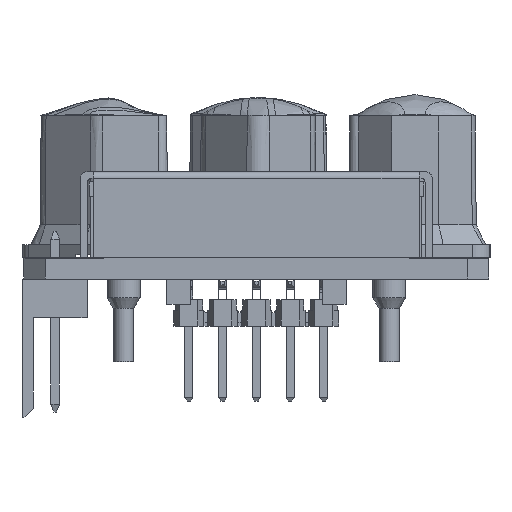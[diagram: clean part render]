
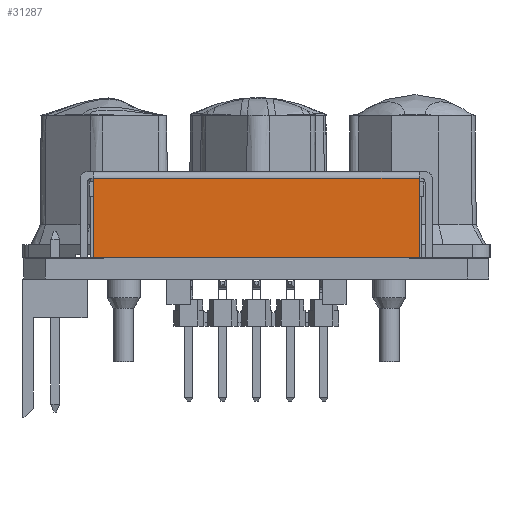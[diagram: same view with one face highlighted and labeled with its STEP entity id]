
A CAD part, left-side view. The second image highlights one B-rep face of the part: STEP entity #31287.
In plain terms, the highlighted planar face has unit normal (-1, 0, 0).
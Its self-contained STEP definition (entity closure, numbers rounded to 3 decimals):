
#1053 = ORIENTED_EDGE ( 'NONE', *, *, #50927, .F. ) ;
#1057 = ORIENTED_EDGE ( 'NONE', *, *, #50912, .T. ) ;
#5217 = LINE ( 'NONE', #8611, #5220 ) ;
#5220 = VECTOR ( 'NONE', #8613, 1000. ) ;
#5226 = LINE ( 'NONE', #8619, #5232 ) ;
#5232 = VECTOR ( 'NONE', #8628, 1000. ) ;
#5239 = LINE ( 'NONE', #8636, #5246 ) ;
#5246 = VECTOR ( 'NONE', #8644, 1000. ) ;
#5251 = LINE ( 'NONE', #8655, #5254 ) ;
#5254 = VECTOR ( 'NONE', #8656, 1000. ) ;
#6406 = EDGE_LOOP ( 'NONE', ( #39772, #39771, #1053, #1057 ) ) ;
#8611 = CARTESIAN_POINT ( 'NONE',  ( -59.698, 20.707, 1.764 ) ) ;
#8613 = DIRECTION ( 'NONE',  ( 0., -1., 0. ) ) ;
#8619 = CARTESIAN_POINT ( 'NONE',  ( -59.698, -4.793, 1.764 ) ) ;
#8628 = DIRECTION ( 'NONE',  ( 0., 0., 1. ) ) ;
#8636 = CARTESIAN_POINT ( 'NONE',  ( -59.698, 19.707, 1.764 ) ) ;
#8644 = DIRECTION ( 'NONE',  ( 0., 0., 1. ) ) ;
#8655 = CARTESIAN_POINT ( 'NONE',  ( -59.698, 19.707, 7.764 ) ) ;
#8656 = DIRECTION ( 'NONE',  ( 0., 1., 0. ) ) ;
#25852 = CARTESIAN_POINT ( 'NONE',  ( -59.698, 19.707, 1.764 ) ) ;
#26135 = CARTESIAN_POINT ( 'NONE',  ( -59.698, 19.707, 7.764 ) ) ;
#26143 = CARTESIAN_POINT ( 'NONE',  ( -59.698, -4.793, 1.764 ) ) ;
#26146 = CARTESIAN_POINT ( 'NONE',  ( -59.698, -4.793, 7.764 ) ) ;
#31287 = ADVANCED_FACE ( 'NONE', ( #37996 ), #39289, .F. ) ;
#37996 = FACE_OUTER_BOUND ( 'NONE', #6406, .T. ) ;
#38530 = VERTEX_POINT ( 'NONE', #25852 ) ;
#39289 = PLANE ( 'NONE',  #54486 ) ;
#39308 = CARTESIAN_POINT ( 'NONE',  ( -59.698, 20.707, 8.264 ) ) ;
#39309 = DIRECTION ( 'NONE',  ( 1., 0., 0. ) ) ;
#39310 = DIRECTION ( 'NONE',  ( 0., 0., -1. ) ) ;
#39771 = ORIENTED_EDGE ( 'NONE', *, *, #50932, .T. ) ;
#39772 = ORIENTED_EDGE ( 'NONE', *, *, #50919, .T. ) ;
#41590 = VERTEX_POINT ( 'NONE', #26135 ) ;
#41603 = VERTEX_POINT ( 'NONE', #26143 ) ;
#41604 = VERTEX_POINT ( 'NONE', #26146 ) ;
#50912 = EDGE_CURVE ( 'NONE', #38530, #41603, #5217, .T. ) ;
#50919 = EDGE_CURVE ( 'NONE', #41603, #41604, #5226, .T. ) ;
#50927 = EDGE_CURVE ( 'NONE', #38530, #41590, #5239, .T. ) ;
#50932 = EDGE_CURVE ( 'NONE', #41604, #41590, #5251, .T. ) ;
#54486 = AXIS2_PLACEMENT_3D ( 'NONE', #39308, #39309, #39310 ) ;
